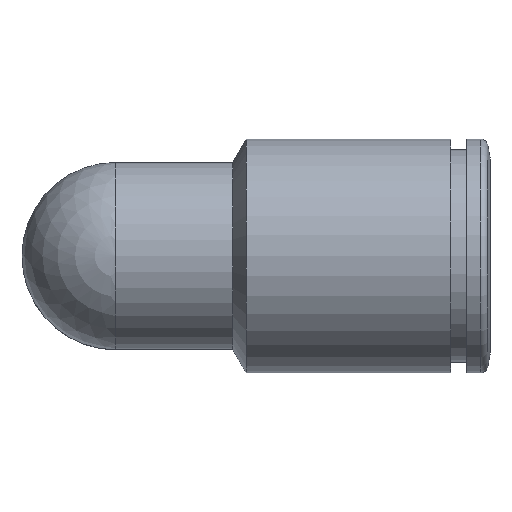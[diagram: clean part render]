
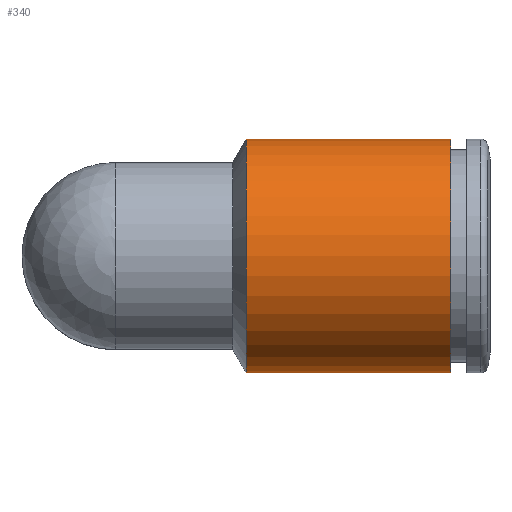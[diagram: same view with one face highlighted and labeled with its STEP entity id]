
A CAD part, top view. The second image highlights one B-rep face of the part: STEP entity #340.
In plain terms, the highlighted cylindrical face has radius 7.5 mm (diameter 15 mm), a full revolution.
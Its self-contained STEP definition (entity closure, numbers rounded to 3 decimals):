
#340=ADVANCED_FACE('', (#350,#360), #370, .T.);
#2430=AXIS2_PLACEMENT_3D('Ax2Pl3d', #2440, #2450, #2460);
#2510=AXIS2_PLACEMENT_3D('Ax2Pl3d', #2520, #2530, #2540);
#2550=AXIS2_PLACEMENT_3D('Ax2Pl3d', #2560, #2570, #2580);
#2440=CARTESIAN_POINT('HicPkt', (35.493,15.28,
43.584));
#11170=CARTESIAN_POINT('', (35.493,7.78,43.584));
#2520=CARTESIAN_POINT('HicPkt', (35.493,15.28,
43.584));
#2560=CARTESIAN_POINT('HicPkt', (22.359,15.28,
43.584));
#11190=CARTESIAN_POINT('', (22.359,15.28,51.084));
#11580=CIRCLE('Circle', #2430, 7.5);
#11600=CIRCLE('Circle', #2550, 7.5);
#370=CYLINDRICAL_SURFACE('Zyl', #2510, 7.5);
#2450=DIRECTION('Axis', (1.,0.,0.));
#2460=DIRECTION('RefDirection', (0.,0.,-1.));
#2530=DIRECTION('Axis', (-1.,0.,0.))
;
#2540=DIRECTION('RefDirection', (0.,
0.,-1.));
#2570=DIRECTION('Axis', (-1.,0.,0.))
;
#2580=DIRECTION('RefDirection', (0.,
0.,-1.));
#13650=EDGE_CURVE('', #13660, #13660, #11580, .T.);
#13690=EDGE_CURVE('', #13700, #13700, #11600, .T.);
#14740=EDGE_LOOP('Edge_loop', (#14750));
#14760=EDGE_LOOP('Edge_loop', (#14770));
#360=FACE_BOUND('', #14760, .T.);
#350=FACE_OUTER_BOUND('Face_outer_bound', #14740, .T.);
#14750=ORIENTED_EDGE('', *, *, #13650, .F.);
#14770=ORIENTED_EDGE('', *, *, #13690, .F.);
#13660=VERTEX_POINT('', #11170);
#13700=VERTEX_POINT('', #11190);
